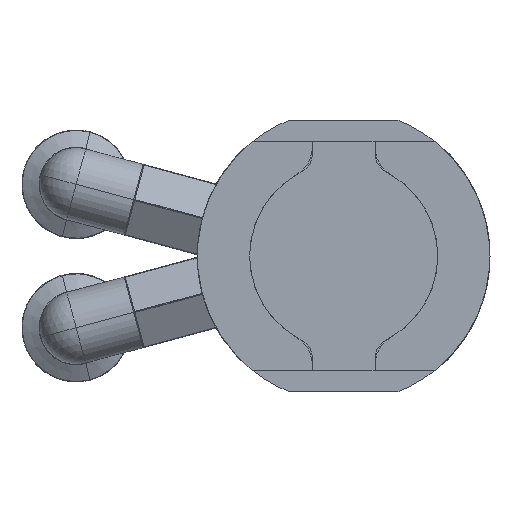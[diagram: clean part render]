
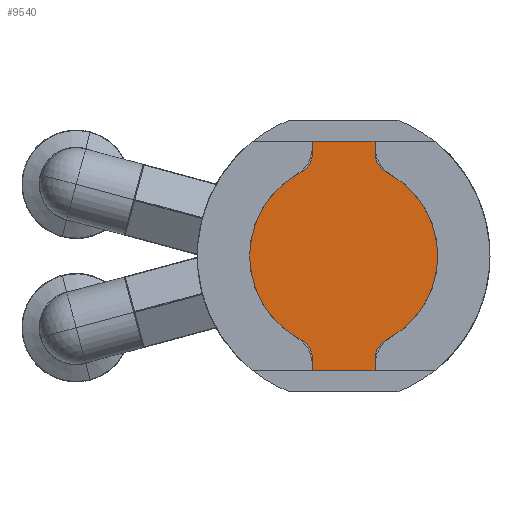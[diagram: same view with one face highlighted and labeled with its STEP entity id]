
A CAD part, front view. The second image highlights one B-rep face of the part: STEP entity #9540.
In plain terms, the highlighted planar face has unit normal (0, -1, 0).
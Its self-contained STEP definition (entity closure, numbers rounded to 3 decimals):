
#362 = EDGE_CURVE ( 'NONE', #7649, #16064, #18020, .T. ) ;
#426 = DIRECTION ( 'NONE',  ( -1., 0., 0. ) ) ;
#610 = ORIENTED_EDGE ( 'NONE', *, *, #4845, .T. ) ;
#886 = ORIENTED_EDGE ( 'NONE', *, *, #7729, .T. ) ;
#1271 = EDGE_CURVE ( 'NONE', #18796, #11820, #2610, .T. ) ;
#1272 = CARTESIAN_POINT ( 'NONE',  ( -5., 0., -9.798 ) ) ;
#1275 = CARTESIAN_POINT ( 'NONE',  ( 3., 0., 9.798 ) ) ;
#1404 = CARTESIAN_POINT ( 'NONE',  ( 3., 0., -9.798 ) ) ;
#2234 = DIRECTION ( 'NONE',  ( 0., 0., -1. ) ) ;
#2435 = CIRCLE ( 'NONE', #12695, 9. ) ;
#2456 = CARTESIAN_POINT ( 'NONE',  ( 0., 0., 0. ) ) ;
#2497 = AXIS2_PLACEMENT_3D ( 'NONE', #9521, #3674, #9826 ) ;
#2610 = LINE ( 'NONE', #7325, #4062 ) ;
#2628 = EDGE_CURVE ( 'NONE', #5117, #7649, #13752, .T. ) ;
#2800 = ORIENTED_EDGE ( 'NONE', *, *, #1271, .T. ) ;
#2834 = CIRCLE ( 'NONE', #9567, 2. ) ;
#2947 = DIRECTION ( 'NONE',  ( 0., 1., 0. ) ) ;
#3001 = AXIS2_PLACEMENT_3D ( 'NONE', #5833, #16636, #15213 ) ;
#3142 = LINE ( 'NONE', #4937, #17585 ) ;
#3165 = DIRECTION ( 'NONE',  ( 0., 0., 1. ) ) ;
#3674 = DIRECTION ( 'NONE',  ( 0., 1., 0. ) ) ;
#4062 = VECTOR ( 'NONE', #11863, 1000. ) ;
#4202 = CARTESIAN_POINT ( 'NONE',  ( -3., 0., 9.798 ) ) ;
#4356 = CARTESIAN_POINT ( 'NONE',  ( 4.091, 0., 8.017 ) ) ;
#4725 = ORIENTED_EDGE ( 'NONE', *, *, #2628, .T. ) ;
#4769 = VERTEX_POINT ( 'NONE', #4202 ) ;
#4845 = EDGE_CURVE ( 'NONE', #4769, #11134, #2834, .T. ) ;
#4937 = CARTESIAN_POINT ( 'NONE',  ( -3., 0., 0. ) ) ;
#5117 = VERTEX_POINT ( 'NONE', #4356 ) ;
#5683 = DIRECTION ( 'NONE',  ( 0., 1., 0. ) ) ;
#5737 = VERTEX_POINT ( 'NONE', #18026 ) ;
#5811 = VERTEX_POINT ( 'NONE', #18507 ) ;
#5833 = CARTESIAN_POINT ( 'NONE',  ( 0., 0., 0. ) ) ;
#5986 = AXIS2_PLACEMENT_3D ( 'NONE', #12108, #2947, #14016 ) ;
#6769 = EDGE_CURVE ( 'NONE', #5737, #9063, #12217, .T. ) ;
#6826 = CARTESIAN_POINT ( 'NONE',  ( 3., 0., 0. ) ) ;
#7125 = CARTESIAN_POINT ( 'NONE',  ( 0., 0., 0. ) ) ;
#7128 = CIRCLE ( 'NONE', #7447, 9. ) ;
#7183 = DIRECTION ( 'NONE',  ( 0., 0., 1. ) ) ;
#7325 = CARTESIAN_POINT ( 'NONE',  ( 0., 0., -11. ) ) ;
#7447 = AXIS2_PLACEMENT_3D ( 'NONE', #2456, #11299, #14748 ) ;
#7649 = VERTEX_POINT ( 'NONE', #1275 ) ;
#7729 = EDGE_CURVE ( 'NONE', #5811, #4769, #14034, .T. ) ;
#7884 = DIRECTION ( 'NONE',  ( 0., 0., 1. ) ) ;
#7906 = EDGE_CURVE ( 'NONE', #11134, #5737, #7128, .T. ) ;
#7985 = CARTESIAN_POINT ( 'NONE',  ( -3., 0., 0. ) ) ;
#8066 = CARTESIAN_POINT ( 'NONE',  ( -3., 0., -9.798 ) ) ;
#8251 = ORIENTED_EDGE ( 'NONE', *, *, #16561, .T. ) ;
#8288 = CARTESIAN_POINT ( 'NONE',  ( 3., 0., -11. ) ) ;
#8744 = VECTOR ( 'NONE', #10808, 1000. ) ;
#8838 = ORIENTED_EDGE ( 'NONE', *, *, #12812, .T. ) ;
#8995 = VERTEX_POINT ( 'NONE', #17802 ) ;
#9050 = ORIENTED_EDGE ( 'NONE', *, *, #13562, .T. ) ;
#9063 = VERTEX_POINT ( 'NONE', #8066 ) ;
#9521 = CARTESIAN_POINT ( 'NONE',  ( 5., 0., 9.798 ) ) ;
#9540 = ADVANCED_FACE ( 'NONE', ( #19748 ), #18248, .F. ) ;
#9567 = AXIS2_PLACEMENT_3D ( 'NONE', #13187, #13851, #7884 ) ;
#9700 = ORIENTED_EDGE ( 'NONE', *, *, #14028, .T. ) ;
#9826 = DIRECTION ( 'NONE',  ( 0., 0., 1. ) ) ;
#10808 = DIRECTION ( 'NONE',  ( 0., 0., -1. ) ) ;
#10826 = ORIENTED_EDGE ( 'NONE', *, *, #10945, .T. ) ;
#10945 = EDGE_CURVE ( 'NONE', #8995, #5117, #2435, .T. ) ;
#11106 = CARTESIAN_POINT ( 'NONE',  ( 3., 0., 0. ) ) ;
#11134 = VERTEX_POINT ( 'NONE', #11244 ) ;
#11244 = CARTESIAN_POINT ( 'NONE',  ( -4.091, 0., 8.017 ) ) ;
#11299 = DIRECTION ( 'NONE',  ( 0., -1., 0. ) ) ;
#11820 = VERTEX_POINT ( 'NONE', #8288 ) ;
#11848 = CARTESIAN_POINT ( 'NONE',  ( 3., 0., 11. ) ) ;
#11863 = DIRECTION ( 'NONE',  ( 1., 0., 0. ) ) ;
#11903 = AXIS2_PLACEMENT_3D ( 'NONE', #1272, #5683, #7183 ) ;
#12108 = CARTESIAN_POINT ( 'NONE',  ( 5., 0., -9.798 ) ) ;
#12217 = CIRCLE ( 'NONE', #11903, 2. ) ;
#12398 = DIRECTION ( 'NONE',  ( 0., 0., -1. ) ) ;
#12695 = AXIS2_PLACEMENT_3D ( 'NONE', #7125, #12892, #2234 ) ;
#12812 = EDGE_CURVE ( 'NONE', #18101, #8995, #14050, .T. ) ;
#12892 = DIRECTION ( 'NONE',  ( 0., -1., 0. ) ) ;
#13187 = CARTESIAN_POINT ( 'NONE',  ( -5., 0., 9.798 ) ) ;
#13562 = EDGE_CURVE ( 'NONE', #11820, #18101, #15101, .T. ) ;
#13752 = CIRCLE ( 'NONE', #2497, 2. ) ;
#13851 = DIRECTION ( 'NONE',  ( 0., 1., 0. ) ) ;
#14016 = DIRECTION ( 'NONE',  ( 0., 0., 1. ) ) ;
#14028 = EDGE_CURVE ( 'NONE', #9063, #18796, #3142, .T. ) ;
#14034 = LINE ( 'NONE', #7985, #8744 ) ;
#14050 = CIRCLE ( 'NONE', #5986, 2. ) ;
#14436 = LINE ( 'NONE', #19072, #18642 ) ;
#14748 = DIRECTION ( 'NONE',  ( 0., 0., -1. ) ) ;
#14887 = ORIENTED_EDGE ( 'NONE', *, *, #362, .T. ) ;
#15101 = LINE ( 'NONE', #11106, #16337 ) ;
#15213 = DIRECTION ( 'NONE',  ( 0., 0., 1. ) ) ;
#16008 = CARTESIAN_POINT ( 'NONE',  ( -3., 0., -11. ) ) ;
#16064 = VERTEX_POINT ( 'NONE', #11848 ) ;
#16337 = VECTOR ( 'NONE', #3165, 1000. ) ;
#16555 = VECTOR ( 'NONE', #18672, 1000. ) ;
#16561 = EDGE_CURVE ( 'NONE', #16064, #5811, #14436, .T. ) ;
#16636 = DIRECTION ( 'NONE',  ( 0., 1., 0. ) ) ;
#17585 = VECTOR ( 'NONE', #12398, 1000. ) ;
#17802 = CARTESIAN_POINT ( 'NONE',  ( 4.091, 0., -8.017 ) ) ;
#17925 = ORIENTED_EDGE ( 'NONE', *, *, #6769, .T. ) ;
#18020 = LINE ( 'NONE', #6826, #16555 ) ;
#18026 = CARTESIAN_POINT ( 'NONE',  ( -4.091, 0., -8.017 ) ) ;
#18101 = VERTEX_POINT ( 'NONE', #1404 ) ;
#18248 = PLANE ( 'NONE',  #3001 ) ;
#18451 = EDGE_LOOP ( 'NONE', ( #19097, #17925, #9700, #2800, #9050, #8838, #10826, #4725, #14887, #8251, #886, #610 ) ) ;
#18507 = CARTESIAN_POINT ( 'NONE',  ( -3., 0., 11. ) ) ;
#18642 = VECTOR ( 'NONE', #426, 1000. ) ;
#18672 = DIRECTION ( 'NONE',  ( 0., 0., 1. ) ) ;
#18796 = VERTEX_POINT ( 'NONE', #16008 ) ;
#19072 = CARTESIAN_POINT ( 'NONE',  ( 0., 0., 11. ) ) ;
#19097 = ORIENTED_EDGE ( 'NONE', *, *, #7906, .T. ) ;
#19748 = FACE_OUTER_BOUND ( 'NONE', #18451, .T. ) ;
